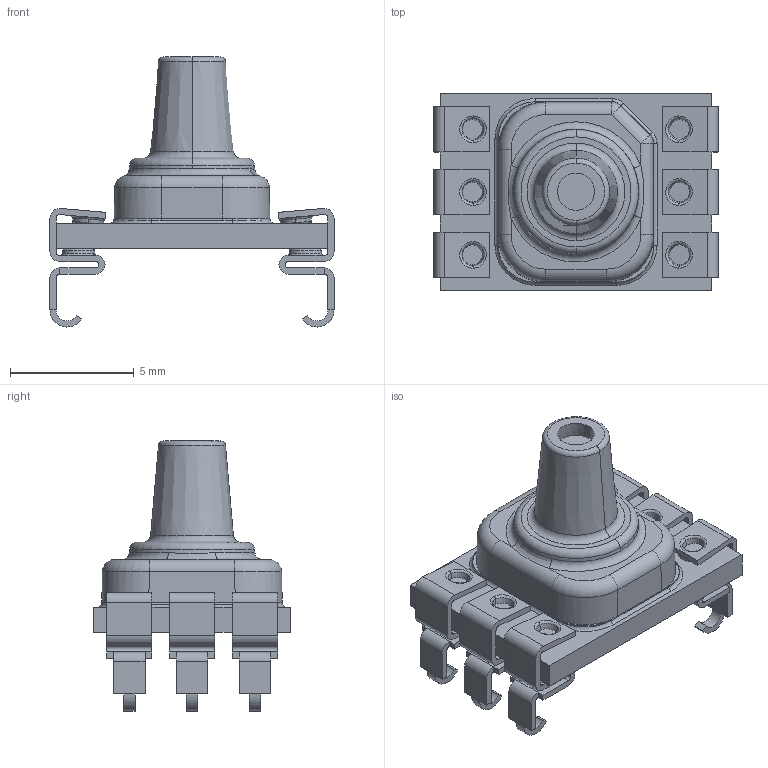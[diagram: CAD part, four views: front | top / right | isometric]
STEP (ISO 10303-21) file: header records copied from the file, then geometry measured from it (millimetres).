
FILE_DESCRIPTION((''),'2;1');
FILE_NAME('32300686-001_AN','2015-04-29T',('H116907'),(''),'PRO/ENGINEER BY PARAMETRIC TECHNOLOGY CORPORATION, 2013410','PRO/ENGINEER BY PARAMETRIC TECHNOLOGY CORPORATION, 2013410','');
FILE_SCHEMA(('CONFIG_CONTROL_DESIGN'));
Length unit declared in the file: millimetre
Products named in the file (1): 32300686-001_AN
Bounding box: 11.5 x 8 x 10.93 mm (x, y, z)
Volume: 240.5 mm3; surface area: 526.9 mm2
Topology: 1 solids, 8 shells, 594 faces, 2092 edges, 1531 vertices
Faces by surface type: plane 352, cylinder 82, torus 78, cone 54, bspline 26, sphere 2
Entity records: 24272 total; most frequent: CARTESIAN_POINT 5704, ORIENTED_EDGE 4126, DIRECTION 3642, EDGE_CURVE 2090, VERTEX_POINT 1531, VECTOR 1496, LINE 1496, AXIS2_PLACEMENT_3D 1073
